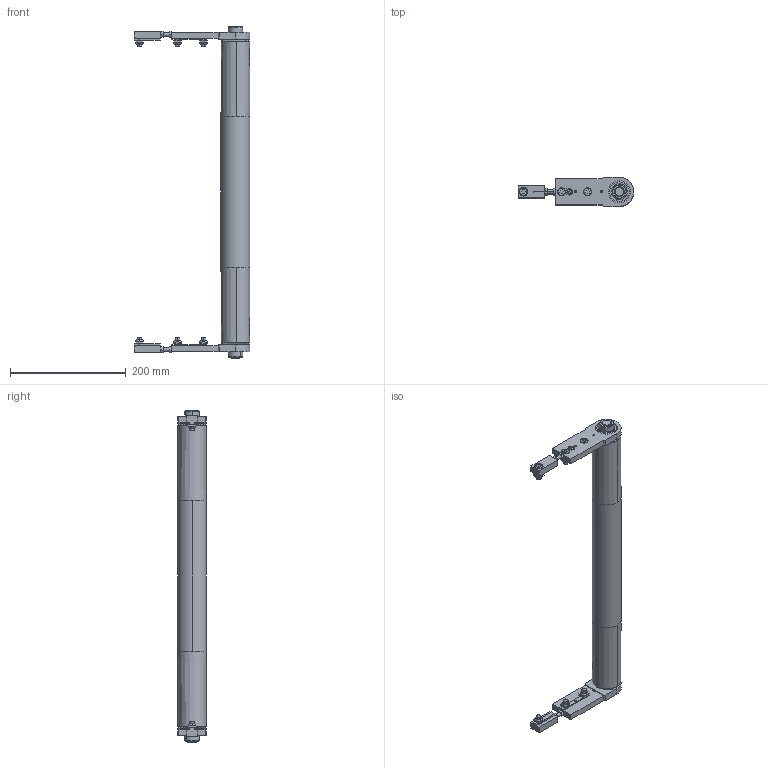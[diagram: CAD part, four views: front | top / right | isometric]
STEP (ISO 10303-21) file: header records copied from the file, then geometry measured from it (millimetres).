
FILE_DESCRIPTION (( 'STEP AP203' ), '1' );
FILE_NAME ('084.050.KIC.500.STEP', '2019-07-29T10:27:25', ( '' ), ( '' ), 'SwSTEP 2.0', 'SolidWorks 2018', '' );
FILE_SCHEMA (( 'CONFIG_CONTROL_DESIGN' ));
Length unit declared in the file: millimetre
Products named in the file (9): 084.301.000 VITI ALUSIC_084.301.003; 084.815.120_Default<A macchina>; 084.811.004; 084.050.KIC.500; 084.807.004_084.807.004; 084.802.017_084.802.017; 084.802.008; 084.810.001; 084.302.000 DADI ALUSIC 13x13_084.302.004
Assembly tree (23 placements, depth 2):
  084.050.KIC.500
    084.807.004_084.807.004  x2
    084.802.017_084.802.017  x2
    084.811.004  x2
    084.815.120_Default<A macchina>
    084.810.001  x2
    084.802.008  x2
    084.301.000 VITI ALUSIC_084.301.003  x6
    084.302.000 DADI ALUSIC 13x13_084.302.004  x6
Bounding box: 200 x 50 x 574 mm (x, y, z)
Volume: 552912.4 mm3; surface area: 347177.6 mm2
Topology: 29 solids, 31 shells, 758 faces, 1890 edges, 1228 vertices
Faces by surface type: plane 350, cylinder 218, torus 76, cone 60, bspline 46, sphere 8
Entity records: 12534 total; most frequent: CARTESIAN_POINT 2408, DIRECTION 1913, ORIENTED_EDGE 1782, EDGE_CURVE 891, AXIS2_PLACEMENT_3D 736, VERTEX_POINT 583, VECTOR 441, LINE 441
